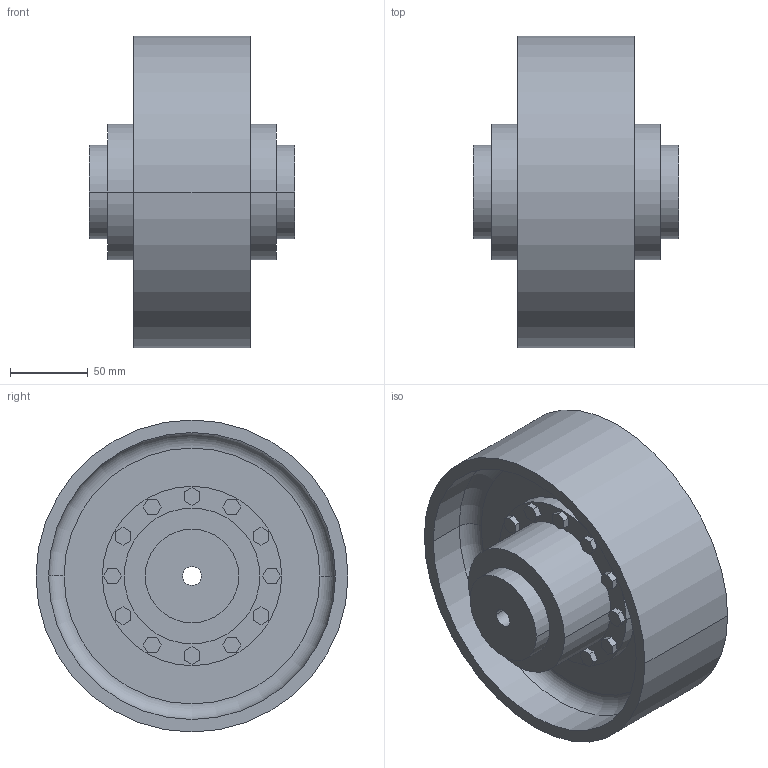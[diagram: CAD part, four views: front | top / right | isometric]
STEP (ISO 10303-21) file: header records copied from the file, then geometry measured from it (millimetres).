
FILE_DESCRIPTION((''),'2;1');
FILE_NAME('A19108800-0_ASM','2018-11-12T',('AB_Roschiwal'),('RENK AG'),'PRO/ENGINEER BY PARAMETRIC TECHNOLOGY CORPORATION, 2015440','PRO/ENGINEER BY PARAMETRIC TECHNOLOGY CORPORATION, 2015440','');
FILE_SCHEMA(('CONFIG_CONTROL_DESIGN'));
Length unit declared in the file: millimetre
Products named in the file (4): LBKD38_GEHAEUSE; LBKD38_NABE; LBKD38_BREMSSCHEIBE; A19108800-0_ASM
Assembly tree (4 placements, depth 2):
  A19108800-0_ASM
    LBKD38_GEHAEUSE
    LBKD38_NABE  x2
    LBKD38_BREMSSCHEIBE
Bounding box: 132 x 200 x 200 mm (x, y, z)
Volume: 1219654.5 mm3; surface area: 272244.2 mm2
Topology: 4 solids, 4 shells, 292 faces, 704 edges, 468 vertices
Faces by surface type: plane 200, cylinder 88, torus 4
Entity records: 8356 total; most frequent: DIRECTION 1424, CARTESIAN_POINT 1420, ORIENTED_EDGE 1360, EDGE_CURVE 680, VECTOR 512, LINE 512, AXIS2_PLACEMENT_3D 456, VERTEX_POINT 452
